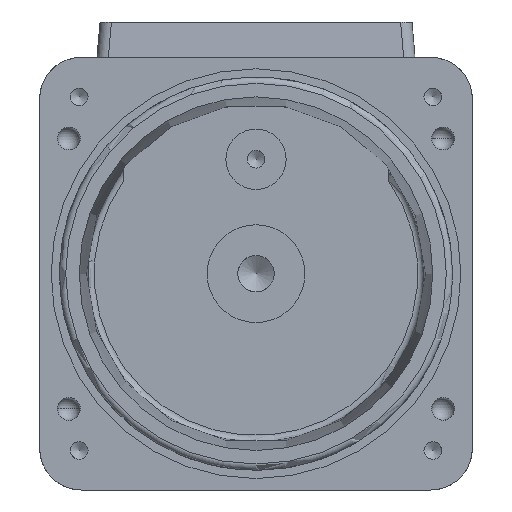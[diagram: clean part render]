
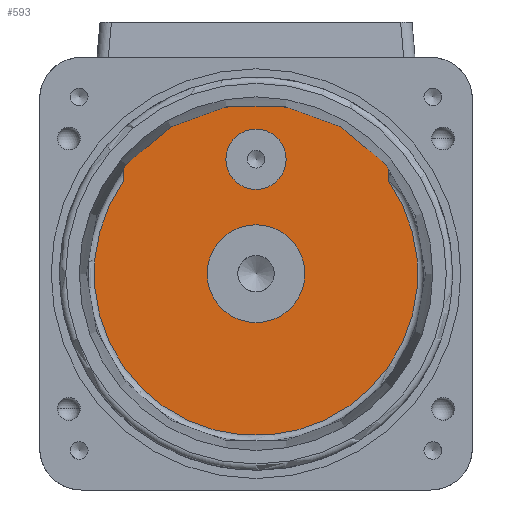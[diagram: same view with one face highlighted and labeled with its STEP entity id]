
A CAD part, left-side view. The second image highlights one B-rep face of the part: STEP entity #593.
In plain terms, the highlighted planar face has unit normal (-1, 0, 0).
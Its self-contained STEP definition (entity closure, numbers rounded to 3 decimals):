
#593=ADVANCED_FACE('',(#1869,#1871,#1873),#1875,.F.);
#1869=FACE_BOUND('',#1870,.T.);
#1870=EDGE_LOOP('',(#7482,#7483,#7484,#7485));
#1871=FACE_BOUND('',#1872,.T.);
#1872=EDGE_LOOP('',(#7486));
#1873=FACE_BOUND('',#1874,.T.);
#1874=EDGE_LOOP('',(#7487));
#1875=PLANE('',#1876);
#1876=AXIS2_PLACEMENT_3D('',#1877,#1878,#1879);
#1877=CARTESIAN_POINT('',(1965.617,1315.594,0.));
#1878=DIRECTION('',(1.,0.,0.));
#1879=DIRECTION('',(0.,1.,0.));
#7482=ORIENTED_EDGE('',*,*,#7763,.T.);
#7483=ORIENTED_EDGE('',*,*,#7956,.T.);
#7484=ORIENTED_EDGE('',*,*,#7957,.T.);
#7485=ORIENTED_EDGE('',*,*,#7958,.F.);
#7486=ORIENTED_EDGE('',*,*,#7788,.F.);
#7487=ORIENTED_EDGE('',*,*,#7790,.F.);
#7763=EDGE_CURVE('',#8031,#8029,#8032,.T.);
#7788=EDGE_CURVE('',#8080,#8080,#8081,.T.);
#7790=EDGE_CURVE('',#8084,#8084,#8085,.T.);
#7956=EDGE_CURVE('',#8029,#8384,#8385,.T.);
#7957=EDGE_CURVE('',#8384,#8386,#8387,.T.);
#7958=EDGE_CURVE('',#8031,#8386,#8388,.T.);
#8029=VERTEX_POINT('',#8472);
#8031=VERTEX_POINT('',#8573);
#8032=CIRCLE('',#8574,77.793);
#8080=VERTEX_POINT('',#9464);
#8081=CIRCLE('',#9465,14.5);
#8084=VERTEX_POINT('',#9474);
#8085=CIRCLE('',#9475,23.5);
#8384=VERTEX_POINT('',#14373);
#8385=LINE('',#14374,#14375);
#8386=VERTEX_POINT('',#14377);
#8387=LINE('',#14378,#14379);
#8388=LINE('',#14381,#14382);
#8472=CARTESIAN_POINT('',(1965.617,1171.353,44.939));
#8573=CARTESIAN_POINT('',(1965.617,1298.353,44.939));
#8574=AXIS2_PLACEMENT_3D('',#8575,#8576,#8577);
#8575=CARTESIAN_POINT('',(1965.617,1234.853,0.));
#8576=DIRECTION('',(-1.,0.,0.));
#8577=DIRECTION('',(0.,0.816,0.578));
#9464=CARTESIAN_POINT('',(1965.617,1249.353,55.));
#9465=AXIS2_PLACEMENT_3D('',#9466,#9467,#9468);
#9466=CARTESIAN_POINT('',(1965.617,1234.853,55.));
#9467=DIRECTION('',(-1.,0.,-0.));
#9468=DIRECTION('',(0.,-1.,0.));
#9474=CARTESIAN_POINT('',(1965.617,1258.353,0.));
#9475=AXIS2_PLACEMENT_3D('',#9476,#9477,#9478);
#9476=CARTESIAN_POINT('',(1965.617,1234.853,0.));
#9477=DIRECTION('',(-1.,0.,-0.));
#9478=DIRECTION('',(0.,-1.,0.));
#14373=CARTESIAN_POINT('',(1965.617,1171.353,101.));
#14374=CARTESIAN_POINT('',(1965.617,1171.353,44.939));
#14375=VECTOR('',#14376,1.);
#14376=DIRECTION('',(0.,0.,1.));
#14377=CARTESIAN_POINT('',(1965.617,1298.353,101.));
#14378=CARTESIAN_POINT('',(1965.617,1171.353,101.));
#14379=VECTOR('',#14380,1.);
#14380=DIRECTION('',(0.,1.,0.));
#14381=CARTESIAN_POINT('',(1965.617,1298.353,44.939));
#14382=VECTOR('',#14383,1.);
#14383=DIRECTION('',(0.,0.,1.));
